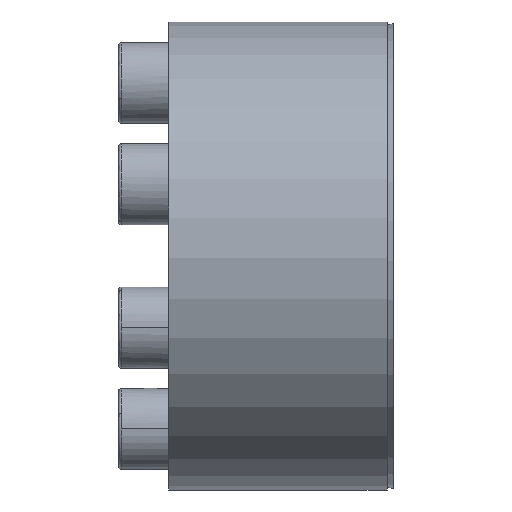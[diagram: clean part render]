
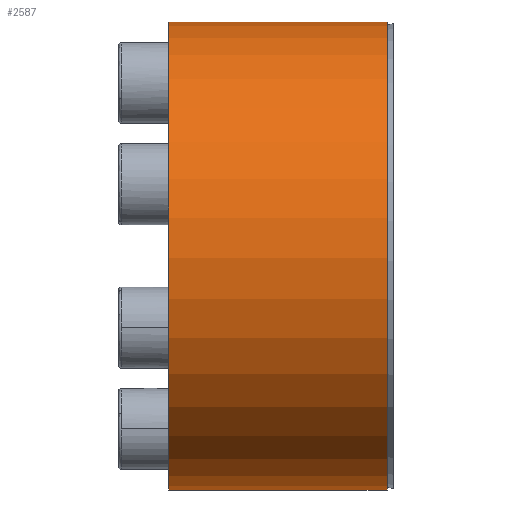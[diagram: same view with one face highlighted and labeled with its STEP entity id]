
A CAD part, left-side view. The second image highlights one B-rep face of the part: STEP entity #2587.
In plain terms, the highlighted cylindrical face has radius 37.5 mm (diameter 75 mm), a partial arc.
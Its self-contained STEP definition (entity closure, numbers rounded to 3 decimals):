
#202 = CARTESIAN_POINT ( 'NONE',  ( 0., 36.005, 0. ) ) ;
#804 = DIRECTION ( 'NONE',  ( 0., 1., 0. ) ) ;
#1111 = ORIENTED_EDGE ( 'NONE', *, *, #6217, .T. ) ;
#1314 = DIRECTION ( 'NONE',  ( 0., 0., 1. ) ) ;
#1494 = CYLINDRICAL_SURFACE ( 'NONE', #13425, 37.5 ) ;
#1550 = DIRECTION ( 'NONE',  ( 0., 1., 0. ) ) ;
#2041 = DIRECTION ( 'NONE',  ( 0., 1., 0. ) ) ;
#2403 = EDGE_CURVE ( 'NONE', #8876, #4929, #10942, .T. ) ;
#2587 = ADVANCED_FACE ( 'NONE', ( #6022 ), #1494, .T. ) ;
#2854 = CARTESIAN_POINT ( 'NONE',  ( 0.8, 48.797, 37.491 ) ) ;
#2925 = CARTESIAN_POINT ( 'NONE',  ( 0., 1.005, 0. ) ) ;
#3160 = AXIS2_PLACEMENT_3D ( 'NONE', #2925, #1550, #12098 ) ;
#3842 = ORIENTED_EDGE ( 'NONE', *, *, #12335, .T. ) ;
#4240 = VERTEX_POINT ( 'NONE', #7257 ) ;
#4259 = AXIS2_PLACEMENT_3D ( 'NONE', #202, #7787, #1314 ) ;
#4486 = EDGE_CURVE ( 'NONE', #4929, #4240, #6777, .T. ) ;
#4929 = VERTEX_POINT ( 'NONE', #6203 ) ;
#5001 = CARTESIAN_POINT ( 'NONE',  ( 0., 48.797, 0. ) ) ;
#5045 = DIRECTION ( 'NONE',  ( 0., -1., 0. ) ) ;
#6022 = FACE_OUTER_BOUND ( 'NONE', #7090, .T. ) ;
#6203 = CARTESIAN_POINT ( 'NONE',  ( -0.8, 1.005, 37.491 ) ) ;
#6217 = EDGE_CURVE ( 'NONE', #4240, #12104, #13351, .T. ) ;
#6777 = LINE ( 'NONE', #8374, #9634 ) ;
#7090 = EDGE_LOOP ( 'NONE', ( #11031, #11260, #1111, #3842 ) ) ;
#7257 = CARTESIAN_POINT ( 'NONE',  ( -0.8, 36.005, 37.491 ) ) ;
#7787 = DIRECTION ( 'NONE',  ( 0., -1., 0. ) ) ;
#8197 = LINE ( 'NONE', #2854, #11045 ) ;
#8374 = CARTESIAN_POINT ( 'NONE',  ( -0.8, 48.797, 37.491 ) ) ;
#8876 = VERTEX_POINT ( 'NONE', #9735 ) ;
#9634 = VECTOR ( 'NONE', #804, 1000. ) ;
#9735 = CARTESIAN_POINT ( 'NONE',  ( 0.8, 1.005, 37.491 ) ) ;
#10942 = CIRCLE ( 'NONE', #3160, 37.5 ) ;
#11031 = ORIENTED_EDGE ( 'NONE', *, *, #2403, .T. ) ;
#11045 = VECTOR ( 'NONE', #5045, 1000. ) ;
#11071 = CARTESIAN_POINT ( 'NONE',  ( 0.8, 36.005, 37.491 ) ) ;
#11260 = ORIENTED_EDGE ( 'NONE', *, *, #4486, .T. ) ;
#12098 = DIRECTION ( 'NONE',  ( 0., 0., 1. ) ) ;
#12104 = VERTEX_POINT ( 'NONE', #11071 ) ;
#12335 = EDGE_CURVE ( 'NONE', #12104, #8876, #8197, .T. ) ;
#12861 = DIRECTION ( 'NONE',  ( 0., 0., 1. ) ) ;
#13351 = CIRCLE ( 'NONE', #4259, 37.5 ) ;
#13425 = AXIS2_PLACEMENT_3D ( 'NONE', #5001, #2041, #12861 ) ;
